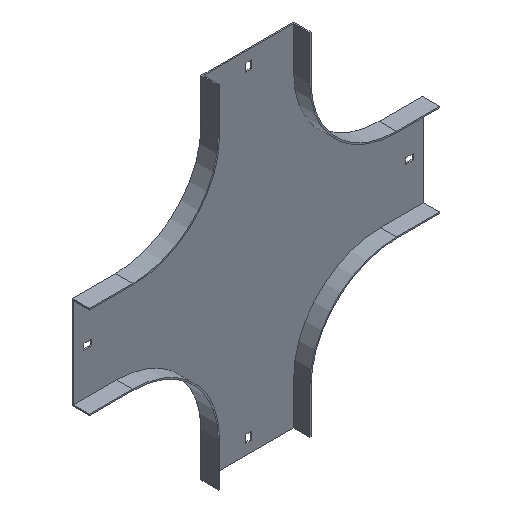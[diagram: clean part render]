
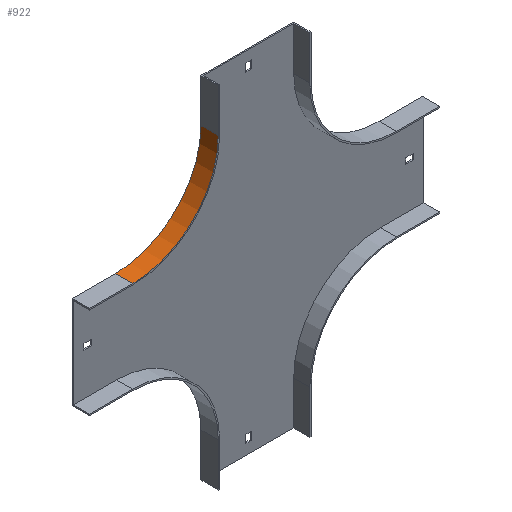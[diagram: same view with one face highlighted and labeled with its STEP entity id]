
A CAD part, isometric view. The second image highlights one B-rep face of the part: STEP entity #922.
In plain terms, the highlighted cylindrical face has radius 98.5 mm (diameter 197 mm), a partial arc.
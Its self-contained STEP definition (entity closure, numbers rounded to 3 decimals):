
#129 = CARTESIAN_POINT ( 'NONE',  ( -304., -20., -98.5 ) ) ;
#142 = EDGE_CURVE ( 'NONE', #333, #240, #576, .T. ) ;
#158 = EDGE_CURVE ( 'NONE', #506, #333, #1022, .T. ) ;
#190 = DIRECTION ( 'NONE',  ( 0., 0., 1. ) ) ;
#211 = CARTESIAN_POINT ( 'NONE',  ( -205.5, 0., 0. ) ) ;
#233 = DIRECTION ( 'NONE',  ( 0., 1., 0. ) ) ;
#240 = VERTEX_POINT ( 'NONE', #211 ) ;
#266 = ORIENTED_EDGE ( 'NONE', *, *, #142, .F. ) ;
#298 = ORIENTED_EDGE ( 'NONE', *, *, #1420, .T. ) ;
#310 = CARTESIAN_POINT ( 'NONE',  ( -205.5, -20., 0. ) ) ;
#331 = FACE_OUTER_BOUND ( 'NONE', #1104, .T. ) ;
#333 = VERTEX_POINT ( 'NONE', #1500 ) ;
#362 = LINE ( 'NONE', #1423, #1248 ) ;
#380 = ORIENTED_EDGE ( 'NONE', *, *, #1284, .T. ) ;
#411 = CARTESIAN_POINT ( 'NONE',  ( -304., -20., 0. ) ) ;
#506 = VERTEX_POINT ( 'NONE', #639 ) ;
#533 = AXIS2_PLACEMENT_3D ( 'NONE', #411, #950, #560 ) ;
#560 = DIRECTION ( 'NONE',  ( 0., 0., 1. ) ) ;
#576 = CIRCLE ( 'NONE', #1177, 98.5 ) ;
#626 = AXIS2_PLACEMENT_3D ( 'NONE', #1338, #1600, #190 ) ;
#639 = CARTESIAN_POINT ( 'NONE',  ( -304., -20., -98.5 ) ) ;
#643 = DIRECTION ( 'NONE',  ( 0., 1., 0. ) ) ;
#833 = CYLINDRICAL_SURFACE ( 'NONE', #626, 98.5 ) ;
#915 = ORIENTED_EDGE ( 'NONE', *, *, #158, .F. ) ;
#922 = ADVANCED_FACE ( 'NONE', ( #331 ), #833, .F. ) ;
#950 = DIRECTION ( 'NONE',  ( 0., -1., 0. ) ) ;
#984 = CIRCLE ( 'NONE', #533, 98.5 ) ;
#1000 = DIRECTION ( 'NONE',  ( 0., -1., 0. ) ) ;
#1022 = LINE ( 'NONE', #129, #1141 ) ;
#1104 = EDGE_LOOP ( 'NONE', ( #266, #915, #298, #380 ) ) ;
#1141 = VECTOR ( 'NONE', #643, 1000. ) ;
#1177 = AXIS2_PLACEMENT_3D ( 'NONE', #1509, #1000, #1257 ) ;
#1248 = VECTOR ( 'NONE', #233, 1000. ) ;
#1257 = DIRECTION ( 'NONE',  ( 0., 0., 1. ) ) ;
#1284 = EDGE_CURVE ( 'NONE', #1433, #240, #362, .T. ) ;
#1338 = CARTESIAN_POINT ( 'NONE',  ( -304., -20., 0. ) ) ;
#1420 = EDGE_CURVE ( 'NONE', #506, #1433, #984, .T. ) ;
#1423 = CARTESIAN_POINT ( 'NONE',  ( -205.5, -20., 0. ) ) ;
#1433 = VERTEX_POINT ( 'NONE', #310 ) ;
#1500 = CARTESIAN_POINT ( 'NONE',  ( -304., 0., -98.5 ) ) ;
#1509 = CARTESIAN_POINT ( 'NONE',  ( -304., 0., 0. ) ) ;
#1600 = DIRECTION ( 'NONE',  ( 0., 1., 0. ) ) ;
